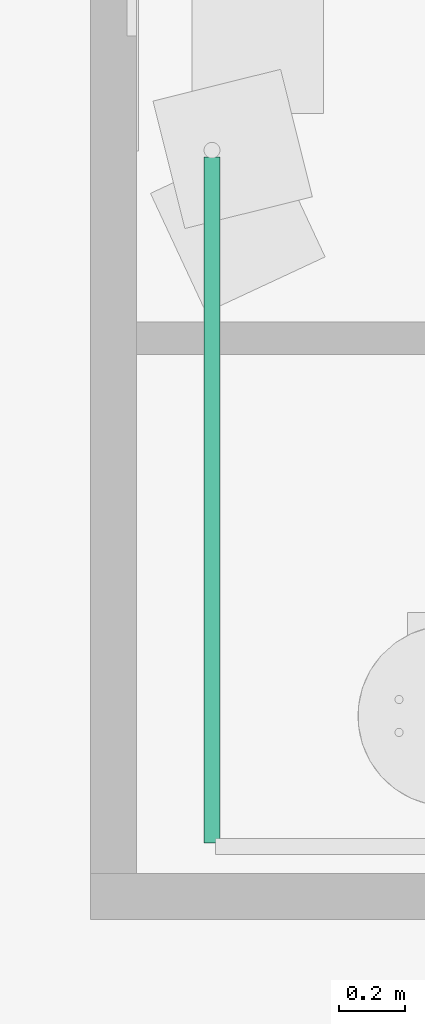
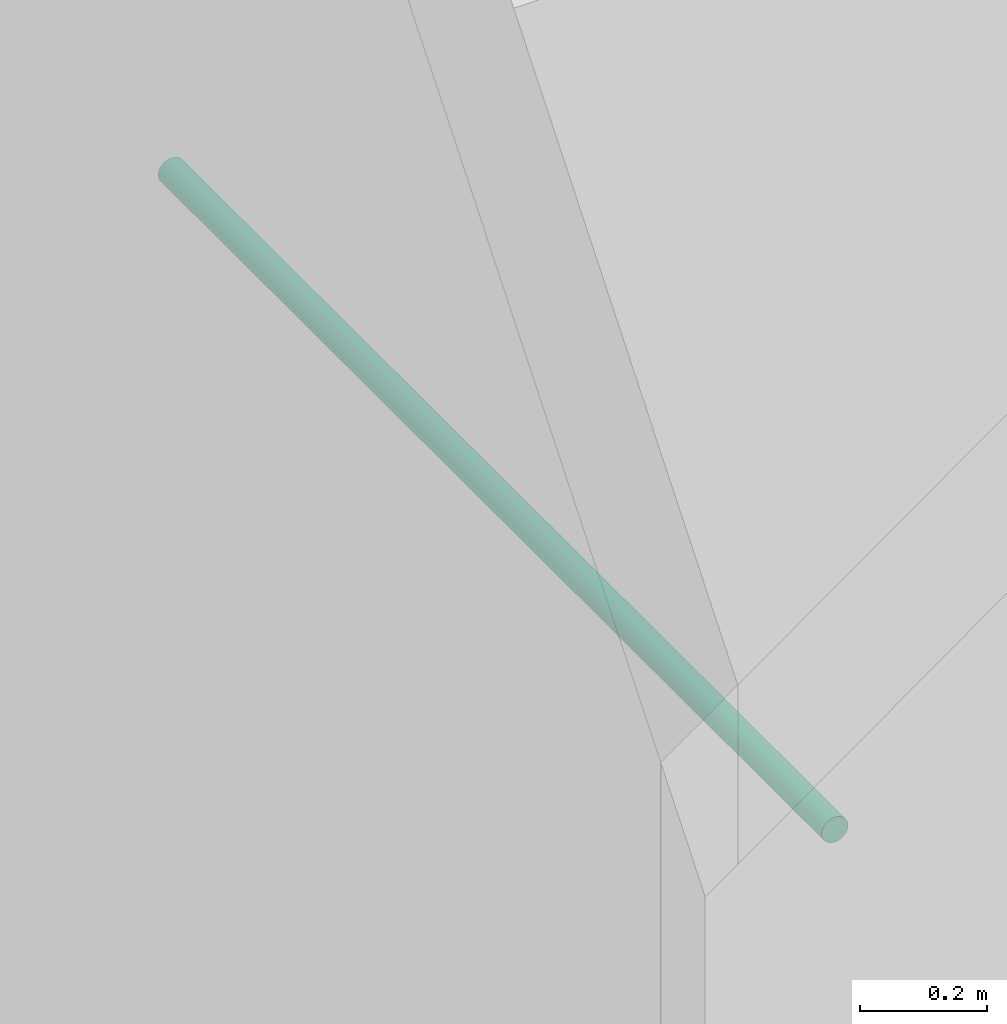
# One storey, part 28 of 71: 1 pipe segment.
"""IFC4 building model written with IfcOpenShell, lengths in centimetres."""

from ifc_helpers import new_model, entity, si_unit, converted_unit, derived_unit, direction, frame, origin, place, context, subcontext, project, spatial, arc, indexed_curve, outline, extrude, type_object, element, save


model = new_model("IFC4")

# Units and contexts
model_context = context("Model", 3, precision=0.001, world=origin(), true_north=direction((6.123233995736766e-17, 1.0)))
body_context = subcontext(model_context, "Body", "Model", "MODEL_VIEW")
ifc_project = project(units=[si_unit("LENGTHUNIT", "METRE", prefix="CENTI"), si_unit("AREAUNIT", "SQUARE_METRE"), si_unit("VOLUMEUNIT", "CUBIC_METRE"), derived_unit("THERMALTRANSMITTANCEUNIT", [(si_unit("MASSUNIT", "GRAM", prefix="KILO"), 1), (si_unit("THERMODYNAMICTEMPERATUREUNIT", "KELVIN"), -1), (si_unit("TIMEUNIT", "SECOND"), -3)]), converted_unit("PLANEANGLEUNIT", "DEGREE", entity("IfcPlaneAngleMeasure", 0.017453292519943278), si_unit("PLANEANGLEUNIT", "RADIAN"), dimensions=[0, 0, 0, 0, 0, 0, 0]), derived_unit("MASSDENSITYUNIT", [(si_unit("MASSUNIT", "GRAM", prefix="KILO"), 1), (si_unit("LENGTHUNIT", "METRE"), -3)]), derived_unit("VAPORPERMEABILITYUNIT", [(si_unit("LENGTHUNIT", "METRE"), -1), (si_unit("TIMEUNIT", "SECOND"), 1)]), derived_unit("USERDEFINED", [(si_unit("MASSUNIT", "GRAM", prefix="KILO"), 1), (si_unit("TIMEUNIT", "SECOND"), -3), (si_unit("LENGTHUNIT", "METRE"), 3), (si_unit("ELECTRICCURRENTUNIT", "AMPERE"), -2)]), derived_unit("SPECIFICHEATCAPACITYUNIT", [(si_unit("THERMODYNAMICTEMPERATUREUNIT", "KELVIN"), -1), (si_unit("LENGTHUNIT", "METRE"), 2), (si_unit("TIMEUNIT", "SECOND"), -2)]), derived_unit("THERMALCONDUCTANCEUNIT", [(si_unit("MASSUNIT", "GRAM", prefix="KILO"), 1), (si_unit("THERMODYNAMICTEMPERATUREUNIT", "KELVIN"), -1), (si_unit("TIMEUNIT", "SECOND"), -3), (si_unit("LENGTHUNIT", "METRE"), 1)]), si_unit("PRESSUREUNIT", "PASCAL"), derived_unit("MODULUSOFELASTICITYUNIT", [(si_unit("MASSUNIT", "GRAM", prefix="KILO"), 1), (si_unit("LENGTHUNIT", "METRE"), -1), (si_unit("TIMEUNIT", "SECOND"), -2)]), derived_unit("THERMALEXPANSIONCOEFFICIENTUNIT", [(si_unit("THERMODYNAMICTEMPERATUREUNIT", "KELVIN"), -1)])], contexts=[model_context])

# Site, building, storey
site_placement = place(None, origin())
site = spatial("IfcSite", under=ifc_project, at=site_placement, Name="Default", CompositionType="ELEMENT")
building_placement = place(site_placement, origin())
building = spatial("IfcBuilding", under=site, at=building_placement, Name="IDS Escape Game Building", CompositionType="ELEMENT")
storey_placement = place(building_placement, frame((0.0, 0.0, 400.0)))
storey = spatial("IfcBuildingStorey", under=building, at=storey_placement, Name="01_First Floor", CompositionType="ELEMENT", Elevation=399.99999999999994)

# Pipe segment
pipe_segment_type = type_object("IfcPipeSegmentType", Name="Pipe Types:Piping Aluminum", PredefinedType="NOTDEFINED")
pipe_segment_placement = place(storey_placement, origin())
element("IfcPipeSegment", 1, at=pipe_segment_placement, inside=storey, type_object=pipe_segment_type, Name="Pipe Types:Piping Aluminum", ObjectType="Pipe Types:Piping Aluminum", PredefinedType="NOTDEFINED", context=body_context, shape_type="SweptSolid", body=[
    extrude(outline(indexed_curve([(2.412999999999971, 0.0), (1.7062486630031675, 1.7062486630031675), (0.0, 2.412999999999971), (-1.7062486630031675, 1.7062486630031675), (-2.412999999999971, 0.0), (-1.7062486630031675, -1.7062486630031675), (0.0, -2.412999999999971), (1.7062486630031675, -1.7062486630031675)], segments=[arc(1, 2, 3), arc(3, 4, 5), arc(5, 6, 7), arc(7, 8, 1)], self_intersect=False)), frame((2244.0467168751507, 1936.3648279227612, 242.0), z_axis=(0.0, 1.0, 0.0), x_axis=(1.0, 0.0, 0.0)), (0.0, 0.0, 1.0), 208.80000000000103),
])

save(model, "model.ifc")
